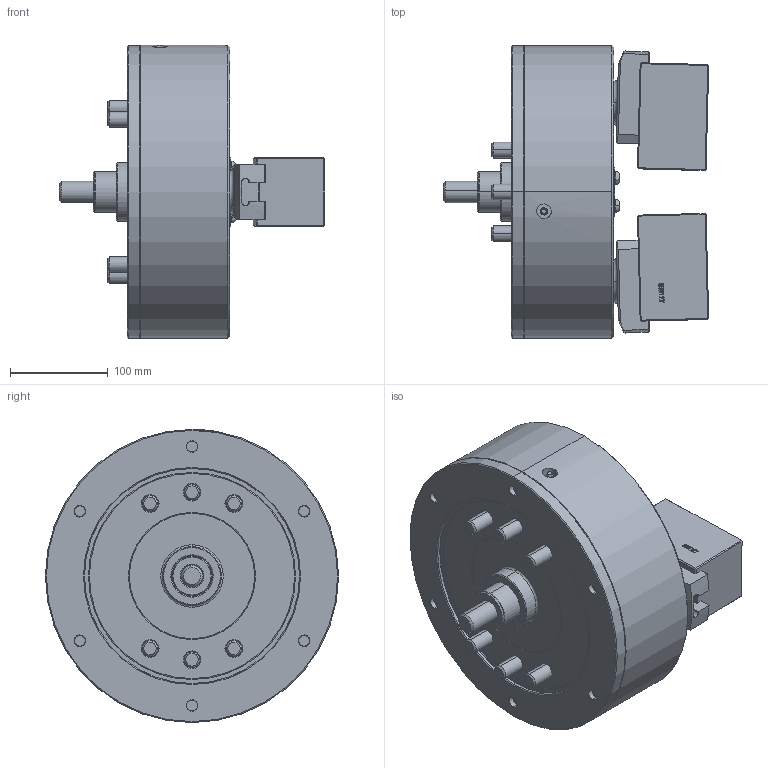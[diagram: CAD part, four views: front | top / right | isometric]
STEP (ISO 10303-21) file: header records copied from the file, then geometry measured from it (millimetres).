
FILE_DESCRIPTION (( 'STEP AP214' ), '1' );
FILE_NAME ('PWT12_OC_OD.STEP', '2019-10-23T00:05:46', ( '' ), ( '' ), 'SwSTEP 2.0', 'SolidWorks 2017', '' );
FILE_SCHEMA (( 'AUTOMOTIVE_DESIGN' ));
Length unit declared in the file: millimetre
Products named in the file (5): 結合_OD; 0030116025; 61P332346; 61P420193; PWT12_OC_OD
Assembly tree (9 placements, depth 2):
  PWT12_OC_OD
    61P420193  x2
    61P332346  x2
    0030116025  x4
    結合_OD
Bounding box: 271.64 x 300 x 300 mm (x, y, z)
Volume: 8453269.7 mm3; surface area: 522488 mm2
Topology: 9 solids, 10 shells, 1667 faces, 4082 edges, 2552 vertices
Faces by surface type: plane 879, cone 271, bspline 233, cylinder 230, torus 54
Entity records: 48719 total; most frequent: CARTESIAN_POINT 16895, ORIENTED_EDGE 6820, DIRECTION 5955, EDGE_CURVE 3410, VERTEX_POINT 2147, VECTOR 2013, LINE 2013, AXIS2_PLACEMENT_3D 1971
